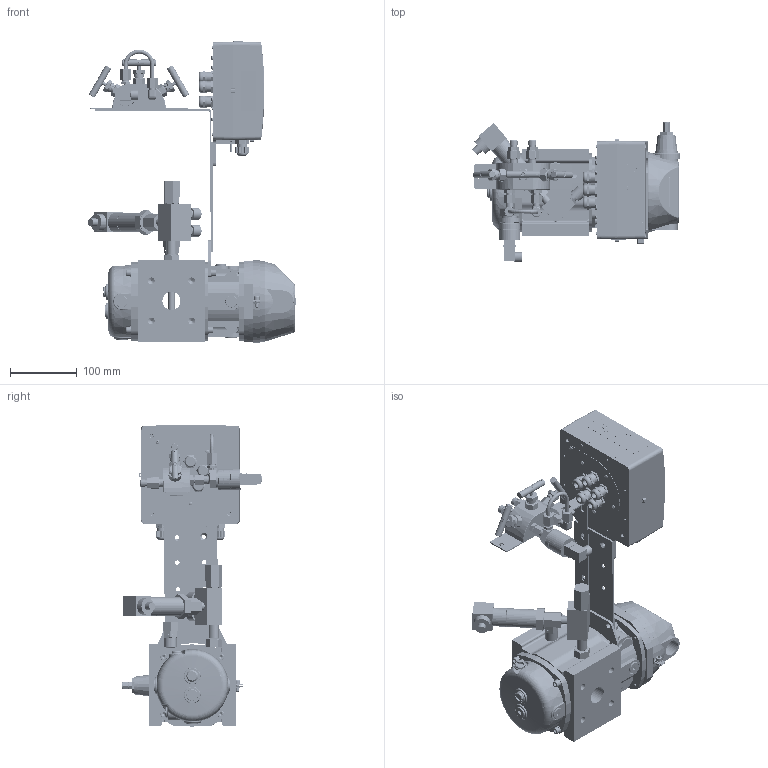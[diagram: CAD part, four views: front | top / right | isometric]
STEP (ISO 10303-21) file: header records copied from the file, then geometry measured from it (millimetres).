
FILE_DESCRIPTION(('STEP AP242'), '1');
FILE_NAME('10 áåç èñòîðèè', '', ('UNSPECIFIED'), ('UNSPECIFIED'), 'C3D Converter', 'C3D Toolkit', '');
FILE_SCHEMA(('AP242_MANAGED_MODEL_BASED_3D_ENGINEERING_MIM_LF { 1 0 10303 442 1 1 4 }'));
Length unit declared in the file: millimetre
Bounding box: 310.59 x 210.57 x 450.33 mm (x, y, z)
Volume: 4273528.5 mm3; surface area: 865347.1 mm2
Topology: 156 solids, 158 shells, 33182 faces, 90197 edges, 59628 vertices
Faces by surface type: plane 15484, extrusion 11492, cylinder 4318, cone 742, bspline 679, torus 393, sphere 74
Full cylindrical faces by diameter (mm): 1.5 x1, 1.95 x3, 2 x12, 2.459 x22, 2.5 x4, 2.791 x2, 2.9 x4, 3 x30, 3.2 x13, 3.242 x8, 3.3 x6, 3.45 x7, 3.5 x16, 4 x18, 4.1 x8, 4.134 x5, 4.2 x12, 4.4 x1, 4.917 x3, 5 x26, 5.2 x4, 5.5 x20, 5.6 x20, 6 x26, 6.2 x2, 6.4 x14, 6.5 x16, 6.6 x4, 7 x18, 8 x22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
Entity records: 1427357 total; most frequent: CARTESIAN_POINT 390547, ORIENTED_EDGE 177496, DIRECTION 126772, EDGE_CURVE 88748, VECTOR 63388, VERTEX_POINT 59579, LINE 51896, B_SPLINE_CURVE_WITH_KNOTS 37456
